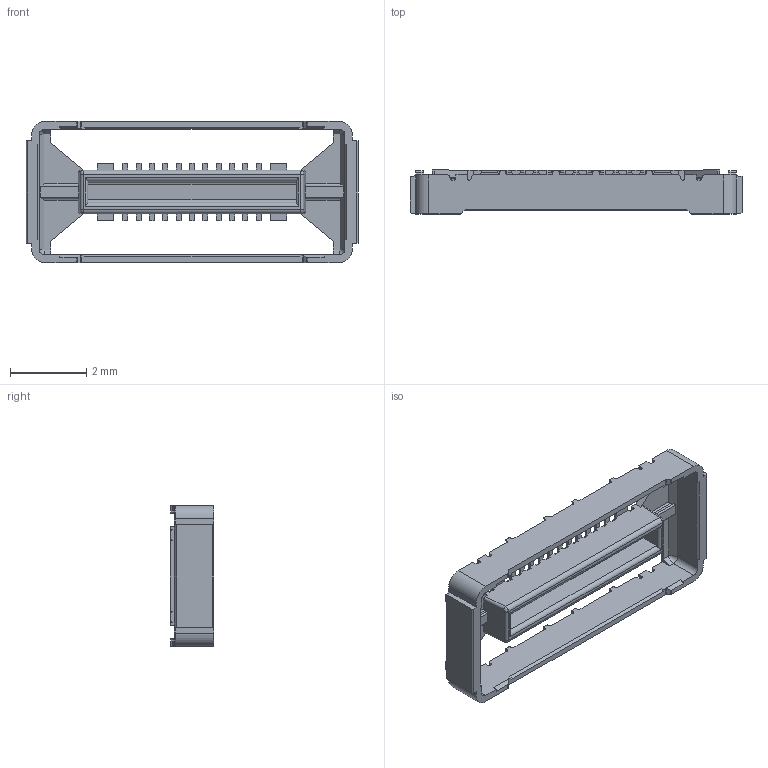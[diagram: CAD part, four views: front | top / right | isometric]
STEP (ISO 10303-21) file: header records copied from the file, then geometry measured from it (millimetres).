
FILE_DESCRIPTION (( 'STEP AP203' ), '1' );
FILE_NAME ('HDP12_22P_PLUG.STEP', '2026-03-04T01:20:34', ( '' ), ( '' ), 'SwSTEP 2.0', 'SolidWorks 2023', '' );
FILE_SCHEMA (( 'CONFIG_CONTROL_DESIGN' ));
Length unit declared in the file: millimetre
Products named in the file (1): HDP12_22P_PLUG
Bounding box: 8.71 x 1.15 x 3.7 mm (x, y, z)
Volume: 10.7 mm3; surface area: 103.1 mm2
Topology: 1 solids, 1 shells, 515 faces, 1452 edges, 936 vertices
Faces by surface type: plane 403, cylinder 104, bspline 4, cone 4
Entity records: 16459 total; most frequent: CARTESIAN_POINT 3076, ORIENTED_EDGE 2904, DIRECTION 2612, EDGE_CURVE 1452, LINE 1236, VECTOR 1236, VERTEX_POINT 936, AXIS2_PLACEMENT_3D 688
